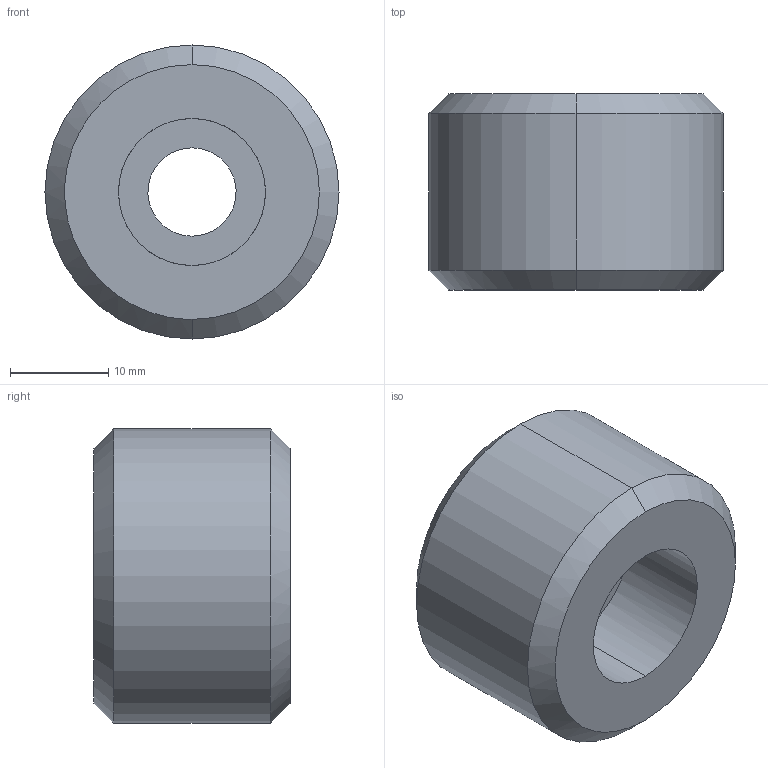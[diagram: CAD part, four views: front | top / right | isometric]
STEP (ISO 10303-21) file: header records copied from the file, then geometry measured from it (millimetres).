
FILE_DESCRIPTION(('CATIA V5 STEP Exchange'),'2;1');
FILE_NAME('C:\Users\Utente\Desktop\IO LAVORO\3D X SITO CF\X 3D SITO CF 27-09-2020\758\758+30+20+10.stp','2020-10-28T19:24:54+00:00',('none'),('none'),'CATIA Version 5 Release 20 GA (IN-10)','CATIA V5 STEP AP203','none');
FILE_SCHEMA(('CONFIG_CONTROL_DESIGN'));
Length unit declared in the file: millimetre
Products named in the file (1): 758+30+20+10
Bounding box: 30 x 20 x 30 mm (x, y, z)
Volume: 11373.6 mm3; surface area: 3694.2 mm2
Topology: 1 solids, 1 shells, 13 faces, 26 edges, 16 vertices
Faces by surface type: cylinder 6, cone 4, plane 3
Entity records: 515 total; most frequent: CARTESIAN_POINT 211, ORIENTED_EDGE 52, DIRECTION 45, EDGE_CURVE 26, AXIS2_PLACEMENT_3D 23, EDGE_LOOP 16, VERTEX_POINT 16, ADVANCED_FACE 13
